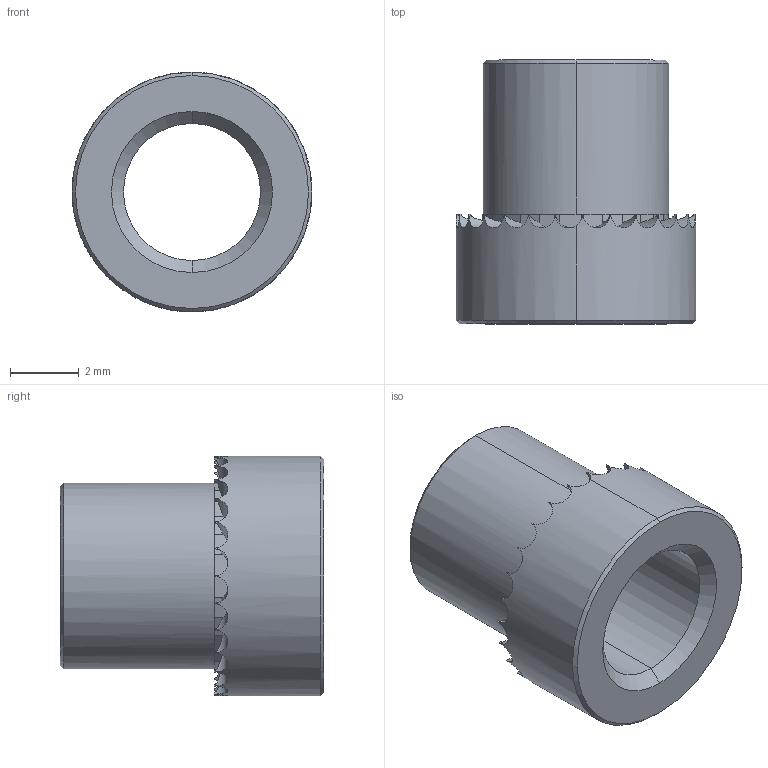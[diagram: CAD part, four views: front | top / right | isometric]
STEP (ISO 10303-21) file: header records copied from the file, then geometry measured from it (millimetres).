
FILE_DESCRIPTION (( 'STEP AP203' ), '1' );
FILE_NAME ('P0829.040-08G-ZP.step', '2019-03-21T22:16:11', ( '' ), ( '' ), 'SwSTEP 2.0', 'SolidWorks 2017', '' );
FILE_SCHEMA (( 'CONFIG_CONTROL_DESIGN' ));
Length unit declared in the file: millimetre
Products named in the file (1): P0829.040-08G-ZP
Bounding box: 7 x 7.7 x 7 mm (x, y, z)
Volume: 122.9 mm3; surface area: 292 mm2
Topology: 1 solids, 1 shells, 124 faces, 304 edges, 182 vertices
Faces by surface type: plane 83, cylinder 33, cone 8
Entity records: 3865 total; most frequent: CARTESIAN_POINT 943, ORIENTED_EDGE 608, DIRECTION 597, EDGE_CURVE 304, AXIS2_PLACEMENT_3D 224, VERTEX_POINT 182, LINE 149, VECTOR 149
